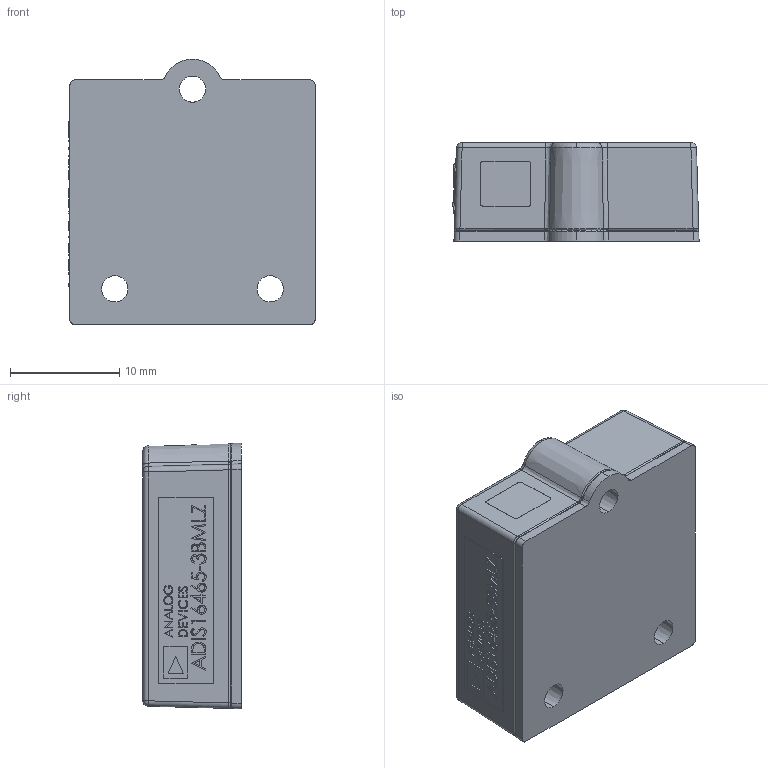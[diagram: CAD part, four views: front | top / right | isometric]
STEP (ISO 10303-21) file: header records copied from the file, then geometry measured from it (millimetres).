
FILE_DESCRIPTION (( 'STEP AP214' ), '1' );
FILE_NAME ('ADIS16465-3BMLZ.STEP', '2017-11-30T20:57:24', ( '' ), ( '' ), 'SwSTEP 2.0', 'SolidWorks 2016', '' );
FILE_SCHEMA (( 'AUTOMOTIVE_DESIGN' ));
Length unit declared in the file: millimetre
Products named in the file (5): FTMH-Conn-Stacker_14Pin; ADIS16460_Lid Rev5_HRB2_No-Skirt_CDS_3-17-16; ADIS16465-3BMLZ; ADiS16460 Assembly_HRB2_CDS_3-17-16; ADIS16460_Base rev4_HRB2_No Skirt_CDS_3-17-15
Assembly tree (4 placements, depth 3):
  ADIS16465-3BMLZ
    ADIS16460_Base rev4_HRB2_No Skirt_CDS_3-17-15
    ADiS16460 Assembly_HRB2_CDS_3-17-16
      FTMH-Conn-Stacker_14Pin
    ADIS16460_Lid Rev5_HRB2_No-Skirt_CDS_3-17-16
Bounding box: 22.49 x 9 x 24.3 mm (x, y, z)
Volume: 2281.6 mm3; surface area: 4100.3 mm2
Topology: 32 solids, 34 shells, 1496 faces, 4031 edges, 2603 vertices
Faces by surface type: plane 957, bspline 326, cylinder 119, torus 38, cone 38, sphere 18
Entity records: 75005 total; most frequent: CARTESIAN_POINT 26159, ORIENTED_EDGE 7770, DIRECTION 6036, EDGE_CURVE 4011, LINE 2912, VECTOR 2912, VERTEX_POINT 2599, EDGE_LOOP 1640
